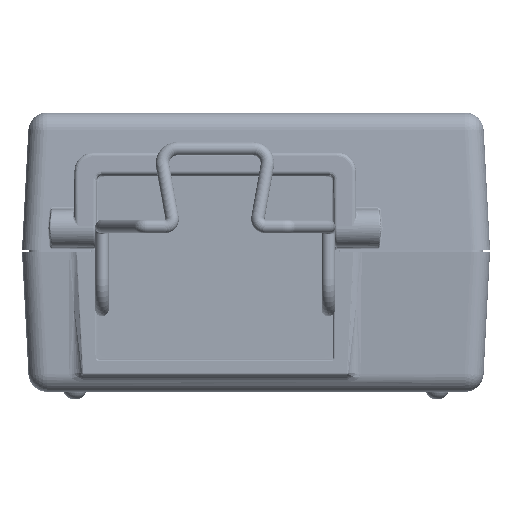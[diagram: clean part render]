
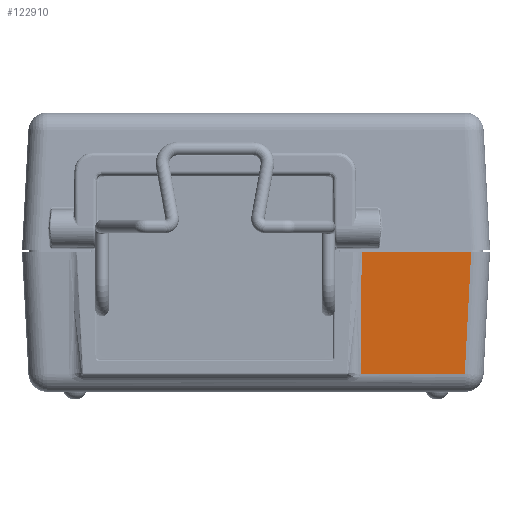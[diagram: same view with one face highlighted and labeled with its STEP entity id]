
A CAD part, left-side view. The second image highlights one B-rep face of the part: STEP entity #122910.
In plain terms, the highlighted planar face has unit normal (-0.999, 0, -0.052).
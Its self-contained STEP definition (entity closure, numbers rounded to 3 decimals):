
#5443 =( BOUNDED_CURVE ( )  B_SPLINE_CURVE ( 3, ( #165467, #198828, #166151, #66804 ),
 .UNSPECIFIED., .F., .F. ) 
 B_SPLINE_CURVE_WITH_KNOTS ( ( 4, 4 ),
 ( 3.67, 4.171 ),
 .UNSPECIFIED. ) 
 CURVE ( )  GEOMETRIC_REPRESENTATION_ITEM ( )  RATIONAL_B_SPLINE_CURVE ( ( 1., 0.979, 0.979, 1. ) ) 
 REPRESENTATION_ITEM ( '' )  );
#7181 = CIRCLE ( 'NONE', #18773, 1.886 ) ;
#9255 = VERTEX_POINT ( 'NONE', #52733 ) ;
#9975 = FACE_OUTER_BOUND ( 'NONE', #99627, .T. ) ;
#10606 = ORIENTED_EDGE ( 'NONE', *, *, #124557, .T. ) ;
#16878 = VERTEX_POINT ( 'NONE', #19536 ) ;
#18773 = AXIS2_PLACEMENT_3D ( 'NONE', #48818, #164833, #65448 ) ;
#19536 = CARTESIAN_POINT ( 'NONE',  ( -69.155, -26.658, 2.369 ) ) ;
#32876 = DIRECTION ( 'NONE',  ( -0.052, 0., 0.999 ) ) ;
#35893 = CARTESIAN_POINT ( 'NONE',  ( -70., -12.988, 18.5 ) ) ;
#38115 = AXIS2_PLACEMENT_3D ( 'NONE', #193799, #132126, #32876 ) ;
#42877 = EDGE_CURVE ( 'NONE', #134365, #104007, #7181, .T. ) ;
#44560 = LINE ( 'NONE', #91510, #171701 ) ;
#47106 = CARTESIAN_POINT ( 'NONE',  ( -69.155, 32., 2.369 ) ) ;
#48818 = CARTESIAN_POINT ( 'NONE',  ( -69.164, -11.04, 2.545 ) ) ;
#52733 = CARTESIAN_POINT ( 'NONE',  ( -70., -27.503, 18.5 ) ) ;
#65428 = PLANE ( 'NONE',  #38115 ) ;
#65448 = DIRECTION ( 'NONE',  ( -0.052, 0., 0.999 ) ) ;
#66804 = CARTESIAN_POINT ( 'NONE',  ( -69.162, -12.926, 2.501 ) ) ;
#72121 = LINE ( 'NONE', #126761, #111066 ) ;
#89402 = ORIENTED_EDGE ( 'NONE', *, *, #153836, .T. ) ;
#91510 = CARTESIAN_POINT ( 'NONE',  ( -70., 32., 18.5 ) ) ;
#92043 = ORIENTED_EDGE ( 'NONE', *, *, #42877, .T. ) ;
#99627 = EDGE_LOOP ( 'NONE', ( #111945, #149701, #92043, #10606, #89402 ) ) ;
#104007 = VERTEX_POINT ( 'NONE', #173644 ) ;
#111066 = VECTOR ( 'NONE', #193490, 1000. ) ;
#111945 = ORIENTED_EDGE ( 'NONE', *, *, #186918, .F. ) ;
#115870 = LINE ( 'NONE', #47106, #165217 ) ;
#122619 = VERTEX_POINT ( 'NONE', #35893 ) ;
#122910 = ADVANCED_FACE ( 'NONE', ( #9975 ), #65428, .T. ) ;
#124557 = EDGE_CURVE ( 'NONE', #104007, #16878, #115870, .T. ) ;
#126761 = CARTESIAN_POINT ( 'NONE',  ( -69.837, -27.341, 15.399 ) ) ;
#132126 = DIRECTION ( 'NONE',  ( -0.999, 0., -0.052 ) ) ;
#134365 = VERTEX_POINT ( 'NONE', #142297 ) ;
#142297 = CARTESIAN_POINT ( 'NONE',  ( -69.162, -12.926, 2.501 ) ) ;
#149701 = ORIENTED_EDGE ( 'NONE', *, *, #206760, .T. ) ;
#153836 = EDGE_CURVE ( 'NONE', #16878, #9255, #72121, .T. ) ;
#164833 = DIRECTION ( 'NONE',  ( 0.999, 0., 0.052 ) ) ;
#165217 = VECTOR ( 'NONE', #179747, 1000. ) ;
#165467 = CARTESIAN_POINT ( 'NONE',  ( -70., -12.988, 18.5 ) ) ;
#166151 = CARTESIAN_POINT ( 'NONE',  ( -69.509, -13.083, 9.14 ) ) ;
#171701 = VECTOR ( 'NONE', #206911, 1000. ) ;
#173644 = CARTESIAN_POINT ( 'NONE',  ( -69.155, -12.918, 2.369 ) ) ;
#179747 = DIRECTION ( 'NONE',  ( 0., -1., 0. ) ) ;
#186918 = EDGE_CURVE ( 'NONE', #122619, #9255, #44560, .T. ) ;
#193490 = DIRECTION ( 'NONE',  ( -0.052, -0.052, 0.997 ) ) ;
#193799 = CARTESIAN_POINT ( 'NONE',  ( -70., 32., 18.5 ) ) ;
#198828 = CARTESIAN_POINT ( 'NONE',  ( -69.795, -13.104, 14.587 ) ) ;
#206760 = EDGE_CURVE ( 'NONE', #122619, #134365, #5443, .T. ) ;
#206911 = DIRECTION ( 'NONE',  ( 0., -1., 0. ) ) ;
